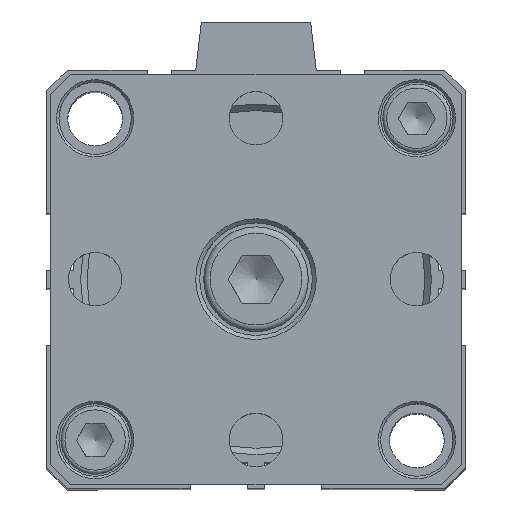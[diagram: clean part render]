
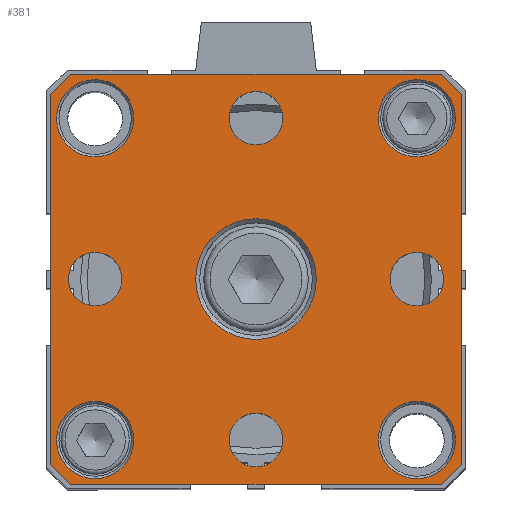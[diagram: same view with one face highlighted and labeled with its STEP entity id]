
A CAD part, top view. The second image highlights one B-rep face of the part: STEP entity #381.
In plain terms, the highlighted planar face has unit normal (0, 0, 1).
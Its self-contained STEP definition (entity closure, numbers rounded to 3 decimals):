
#207=CARTESIAN_POINT('',(25.398,21.555,123.1));
#208=VERTEX_POINT('',#207);
#209=CARTESIAN_POINT('',(20.598,21.555,123.1));
#210=DIRECTION('',(0.0,0.0,1.0));
#211=DIRECTION('',(-1.0,0.0,0.0));
#212=AXIS2_PLACEMENT_3D('',#209,#210,#211);
#213=CIRCLE('',#212,4.8);
#214=EDGE_CURVE('',#208,#208,#213,.T.);
#219=CARTESIAN_POINT('',(0.598,1.555,123.1));
#220=DIRECTION('',(0.0,0.0,1.0));
#221=DIRECTION('',(1.0,0.0,0.0));
#222=AXIS2_PLACEMENT_3D('',#219,#220,#221);
#223=PLANE('',#222);
#224=CARTESIAN_POINT('',(-24.902,24.555,123.1));
#225=VERTEX_POINT('',#224);
#226=CARTESIAN_POINT('',(-22.402,27.055,123.1));
#227=VERTEX_POINT('',#226);
#228=CARTESIAN_POINT('',(-24.902,24.555,123.1));
#229=DIRECTION('',(0.707,0.707,0.0));
#230=VECTOR('',#229,3.536);
#231=LINE('',#228,#230);
#232=EDGE_CURVE('',#225,#227,#231,.T.);
#233=ORIENTED_EDGE('',*,*,#232,.F.);
#234=CARTESIAN_POINT('',(-24.902,-21.445,123.1));
#235=VERTEX_POINT('',#234);
#236=CARTESIAN_POINT('',(-24.902,-21.445,123.1));
#237=DIRECTION('',(0.0,1.0,0.0));
#238=VECTOR('',#237,46.);
#239=LINE('',#236,#238);
#240=EDGE_CURVE('',#235,#225,#239,.T.);
#241=ORIENTED_EDGE('',*,*,#240,.F.);
#242=CARTESIAN_POINT('',(-22.402,-23.945,123.1));
#243=VERTEX_POINT('',#242);
#244=CARTESIAN_POINT('',(-22.402,-23.945,123.1));
#245=DIRECTION('',(-0.707,0.707,0.0));
#246=VECTOR('',#245,3.536);
#247=LINE('',#244,#246);
#248=EDGE_CURVE('',#243,#235,#247,.T.);
#249=ORIENTED_EDGE('',*,*,#248,.F.);
#250=CARTESIAN_POINT('',(23.598,-23.945,123.1));
#251=VERTEX_POINT('',#250);
#252=CARTESIAN_POINT('',(23.598,-23.945,123.1));
#253=DIRECTION('',(-1.0,0.0,0.0));
#254=VECTOR('',#253,46.);
#255=LINE('',#252,#254);
#256=EDGE_CURVE('',#251,#243,#255,.T.);
#257=ORIENTED_EDGE('',*,*,#256,.F.);
#258=CARTESIAN_POINT('',(26.098,-21.445,123.1));
#259=VERTEX_POINT('',#258);
#260=CARTESIAN_POINT('',(26.098,-21.445,123.1));
#261=DIRECTION('',(-0.707,-0.707,0.0));
#262=VECTOR('',#261,3.536);
#263=LINE('',#260,#262);
#264=EDGE_CURVE('',#259,#251,#263,.T.);
#265=ORIENTED_EDGE('',*,*,#264,.F.);
#266=CARTESIAN_POINT('',(26.098,24.555,123.1));
#267=VERTEX_POINT('',#266);
#268=CARTESIAN_POINT('',(26.098,24.555,123.1));
#269=DIRECTION('',(0.0,-1.0,0.0));
#270=VECTOR('',#269,46.);
#271=LINE('',#268,#270);
#272=EDGE_CURVE('',#267,#259,#271,.T.);
#273=ORIENTED_EDGE('',*,*,#272,.F.);
#274=CARTESIAN_POINT('',(23.598,27.055,123.1));
#275=VERTEX_POINT('',#274);
#276=CARTESIAN_POINT('',(23.598,27.055,123.1));
#277=DIRECTION('',(0.707,-0.707,0.0));
#278=VECTOR('',#277,3.536);
#279=LINE('',#276,#278);
#280=EDGE_CURVE('',#275,#267,#279,.T.);
#281=ORIENTED_EDGE('',*,*,#280,.F.);
#282=CARTESIAN_POINT('',(-22.402,27.055,123.1));
#283=DIRECTION('',(1.0,0.0,0.0));
#284=VECTOR('',#283,46.);
#285=LINE('',#282,#284);
#286=EDGE_CURVE('',#227,#275,#285,.T.);
#287=ORIENTED_EDGE('',*,*,#286,.F.);
#288=EDGE_LOOP('',(#233,#241,#249,#257,#265,#273,#281,#287));
#289=FACE_OUTER_BOUND('',#288,.T.);
#290=CARTESIAN_POINT('',(25.398,-18.445,123.1));
#291=VERTEX_POINT('',#290);
#292=CARTESIAN_POINT('',(20.598,-18.445,123.1));
#293=DIRECTION('',(0.0,0.0,1.0));
#294=DIRECTION('',(-1.0,0.0,0.0));
#295=AXIS2_PLACEMENT_3D('',#292,#293,#294);
#296=CIRCLE('',#295,4.8);
#297=EDGE_CURVE('',#291,#291,#296,.T.);
#298=ORIENTED_EDGE('',*,*,#297,.F.);
#299=EDGE_LOOP('',(#298));
#300=FACE_BOUND('',#299,.T.);
#301=CARTESIAN_POINT('',(-14.602,21.555,123.1));
#302=VERTEX_POINT('',#301);
#303=CARTESIAN_POINT('',(-19.402,21.555,123.1));
#304=DIRECTION('',(0.0,0.0,1.0));
#305=DIRECTION('',(-1.0,0.0,0.0));
#306=AXIS2_PLACEMENT_3D('',#303,#304,#305);
#307=CIRCLE('',#306,4.8);
#308=EDGE_CURVE('',#302,#302,#307,.T.);
#309=ORIENTED_EDGE('',*,*,#308,.F.);
#310=EDGE_LOOP('',(#309));
#311=FACE_BOUND('',#310,.T.);
#312=CARTESIAN_POINT('',(3.922,21.555,123.1));
#313=VERTEX_POINT('',#312);
#314=CARTESIAN_POINT('',(0.598,21.555,123.1));
#315=DIRECTION('',(0.0,0.0,-1.0));
#316=DIRECTION('',(1.0,0.0,0.0));
#317=AXIS2_PLACEMENT_3D('',#314,#315,#316);
#318=CIRCLE('',#317,3.324);
#319=EDGE_CURVE('',#313,#313,#318,.T.);
#320=ORIENTED_EDGE('',*,*,#319,.T.);
#321=EDGE_LOOP('',(#320));
#322=FACE_BOUND('',#321,.T.);
#323=CARTESIAN_POINT('',(-16.078,1.555,123.1));
#324=VERTEX_POINT('',#323);
#325=CARTESIAN_POINT('',(-19.402,1.555,123.1));
#326=DIRECTION('',(0.0,0.0,-1.0));
#327=DIRECTION('',(1.0,0.0,0.0));
#328=AXIS2_PLACEMENT_3D('',#325,#326,#327);
#329=CIRCLE('',#328,3.324);
#330=EDGE_CURVE('',#324,#324,#329,.T.);
#331=ORIENTED_EDGE('',*,*,#330,.T.);
#332=EDGE_LOOP('',(#331));
#333=FACE_BOUND('',#332,.T.);
#334=CARTESIAN_POINT('',(3.922,-18.445,123.1));
#335=VERTEX_POINT('',#334);
#336=CARTESIAN_POINT('',(0.598,-18.445,123.1));
#337=DIRECTION('',(0.0,0.0,-1.0));
#338=DIRECTION('',(1.0,0.0,0.0));
#339=AXIS2_PLACEMENT_3D('',#336,#337,#338);
#340=CIRCLE('',#339,3.324);
#341=EDGE_CURVE('',#335,#335,#340,.T.);
#342=ORIENTED_EDGE('',*,*,#341,.T.);
#343=EDGE_LOOP('',(#342));
#344=FACE_BOUND('',#343,.T.);
#345=CARTESIAN_POINT('',(23.922,1.555,123.1));
#346=VERTEX_POINT('',#345);
#347=CARTESIAN_POINT('',(20.598,1.555,123.1));
#348=DIRECTION('',(0.0,0.0,-1.0));
#349=DIRECTION('',(1.0,0.0,0.0));
#350=AXIS2_PLACEMENT_3D('',#347,#348,#349);
#351=CIRCLE('',#350,3.324);
#352=EDGE_CURVE('',#346,#346,#351,.T.);
#353=ORIENTED_EDGE('',*,*,#352,.T.);
#354=EDGE_LOOP('',(#353));
#355=FACE_BOUND('',#354,.T.);
#356=CARTESIAN_POINT('',(8.098,1.555,123.1));
#357=VERTEX_POINT('',#356);
#358=CARTESIAN_POINT('',(0.598,1.555,123.1));
#359=DIRECTION('',(0.0,0.0,1.0));
#360=DIRECTION('',(-1.0,0.0,0.0));
#361=AXIS2_PLACEMENT_3D('',#358,#359,#360);
#362=CIRCLE('',#361,7.5);
#363=EDGE_CURVE('',#357,#357,#362,.T.);
#364=ORIENTED_EDGE('',*,*,#363,.F.);
#365=EDGE_LOOP('',(#364));
#366=FACE_BOUND('',#365,.T.);
#367=CARTESIAN_POINT('',(-14.602,-18.445,123.1));
#368=VERTEX_POINT('',#367);
#369=CARTESIAN_POINT('',(-19.402,-18.445,123.1));
#370=DIRECTION('',(0.0,0.0,1.0));
#371=DIRECTION('',(-1.0,0.0,0.0));
#372=AXIS2_PLACEMENT_3D('',#369,#370,#371);
#373=CIRCLE('',#372,4.8);
#374=EDGE_CURVE('',#368,#368,#373,.T.);
#375=ORIENTED_EDGE('',*,*,#374,.F.);
#376=EDGE_LOOP('',(#375));
#377=FACE_BOUND('',#376,.T.);
#378=ORIENTED_EDGE('',*,*,#214,.F.);
#379=EDGE_LOOP('',(#378));
#380=FACE_BOUND('',#379,.T.);
#381=ADVANCED_FACE('',(#289,#300,#311,#322,#333,#344,#355,#366,#377,#380),#223,.T.);
